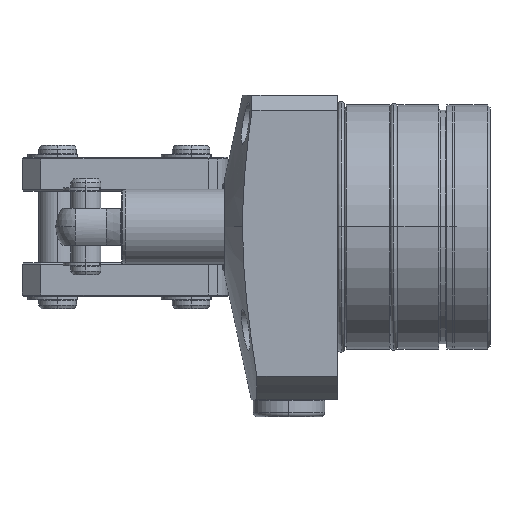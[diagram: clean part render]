
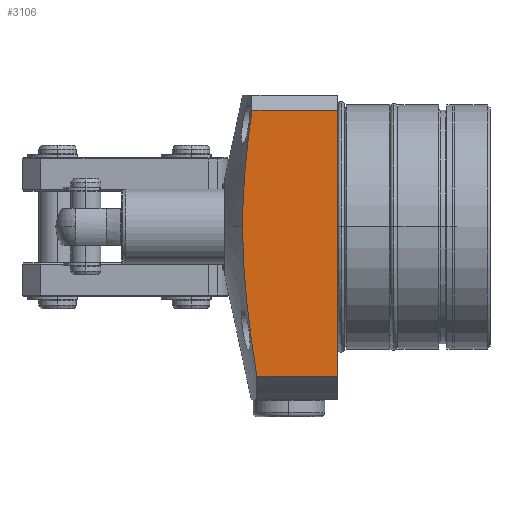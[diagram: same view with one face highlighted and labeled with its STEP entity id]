
A CAD part, top view. The second image highlights one B-rep face of the part: STEP entity #3106.
In plain terms, the highlighted planar face has unit normal (0, 0, 1).
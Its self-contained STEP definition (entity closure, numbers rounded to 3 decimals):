
#1474=B_SPLINE_CURVE_WITH_KNOTS('',3,(#12764,#12765,#12766,#12767),
 .UNSPECIFIED.,.F.,.F.,(4,4),(0.,1.),.UNSPECIFIED.);
#1501=B_SPLINE_CURVE_WITH_KNOTS('',3,(#13238,#13239,#13240,#13241),
 .UNSPECIFIED.,.F.,.F.,(4,4),(0.,1.),.UNSPECIFIED.);
#1782=PLANE('',#8804);
#2383=LINE('',#13205,#2751);
#2391=LINE('',#13235,#2759);
#2392=LINE('',#13237,#2760);
#2751=VECTOR('',#10726,1.);
#2759=VECTOR('',#10756,1.);
#2760=VECTOR('',#10759,1.);
#3106=ADVANCED_FACE('',(#3585),#1782,.F.);
#3585=FACE_OUTER_BOUND('',#4013,.T.);
#4013=EDGE_LOOP('',(#5490,#5491,#5492,#5493,#5494));
#5490=ORIENTED_EDGE('',*,*,#7413,.F.);
#5491=ORIENTED_EDGE('',*,*,#7412,.T.);
#5492=ORIENTED_EDGE('',*,*,#7314,.T.);
#5493=ORIENTED_EDGE('',*,*,#7414,.T.);
#5494=ORIENTED_EDGE('',*,*,#7397,.F.);
#6502=VERTEX_POINT('',#12763);
#6503=VERTEX_POINT('',#12768);
#6569=VERTEX_POINT('',#13204);
#6570=VERTEX_POINT('',#13206);
#6575=VERTEX_POINT('',#13234);
#7314=EDGE_CURVE('',#6503,#6502,#1474,.T.);
#7397=EDGE_CURVE('',#6569,#6570,#2383,.T.);
#7412=EDGE_CURVE('',#6575,#6503,#2391,.T.);
#7413=EDGE_CURVE('',#6575,#6569,#2392,.T.);
#7414=EDGE_CURVE('',#6502,#6570,#1501,.T.);
#8804=AXIS2_PLACEMENT_3D('',#13242,#10760,#10761);
#10726=DIRECTION('',(-1.,0.,0.));
#10756=DIRECTION('',(-1.,0.,0.));
#10759=DIRECTION('',(0.,-1.,0.));
#10760=DIRECTION('',(0.,0.,-1.));
#10761=DIRECTION('',(0.,-1.,0.));
#12763=CARTESIAN_POINT('',(-25.336,0.,35.));
#12764=CARTESIAN_POINT('',(-22.837,31.,35.));
#12765=CARTESIAN_POINT('',(-24.287,20.716,35.));
#12766=CARTESIAN_POINT('',(-25.336,10.4,35.));
#12767=CARTESIAN_POINT('',(-25.336,0.,35.));
#12768=CARTESIAN_POINT('',(-22.837,31.,35.));
#13204=CARTESIAN_POINT('',(0.,-39.799,35.));
#13205=CARTESIAN_POINT('',(31.5,-39.799,35.));
#13206=CARTESIAN_POINT('',(-21.51,-39.799,35.));
#13234=CARTESIAN_POINT('',(0.,31.,35.));
#13235=CARTESIAN_POINT('',(31.501,31.,35.));
#13237=CARTESIAN_POINT('',(0.,31.,35.));
#13238=CARTESIAN_POINT('',(-25.336,0.,35.));
#13239=CARTESIAN_POINT('',(-25.336,-13.38,35.));
#13240=CARTESIAN_POINT('',(-23.615,-26.613,35.));
#13241=CARTESIAN_POINT('',(-21.51,-39.799,35.));
#13242=CARTESIAN_POINT('',(31.501,31.,35.));
